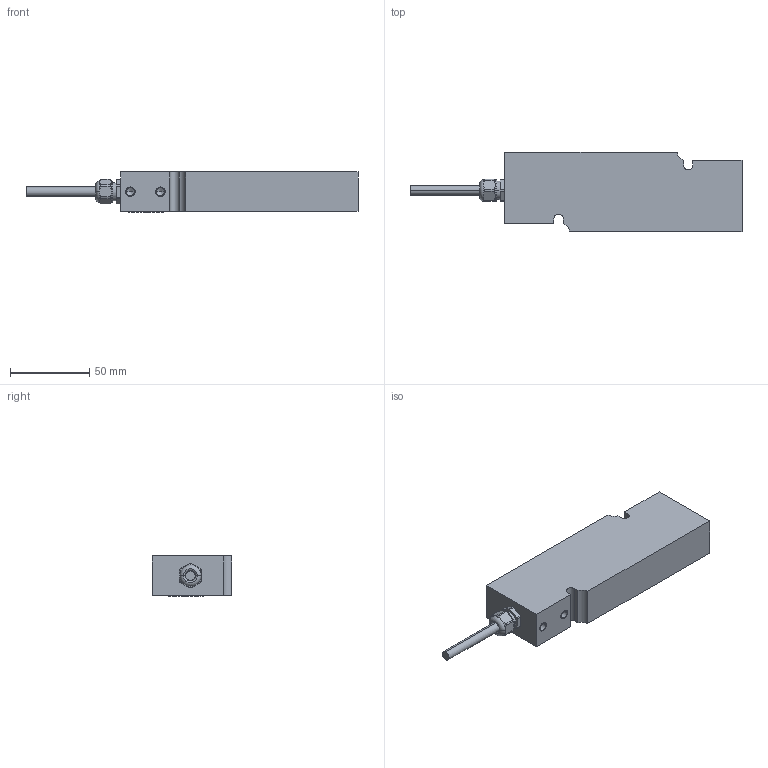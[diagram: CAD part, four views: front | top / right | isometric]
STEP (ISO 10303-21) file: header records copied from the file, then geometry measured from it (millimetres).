
FILE_DESCRIPTION((''),'2;1');
FILE_NAME('D000711350_ASM','2022-04-19T17:14:22',('wang-379'),(''),'CREO PARAMETRIC BY PTC INC, 2018260','CREO PARAMETRIC BY PTC INC, 2018260','');
FILE_SCHEMA(('CONFIG_CONTROL_DESIGN'));
Length unit declared in the file: millimetre
Products named in the file (4): D000285451; D000498808; D000396627; D000711350_ASM
Assembly tree (3 placements, depth 2):
  D000711350_ASM
    D000285451
    D000498808
    D000396627
Bounding box: 210 x 50 x 25.4 mm (x, y, z)
Volume: 172269.9 mm3; surface area: 31290.7 mm2
Topology: 3 solids, 8 shells, 127 faces, 313 edges, 200 vertices
Faces by surface type: plane 50, cylinder 48, cone 22, torus 4, bspline 3
Entity records: 4129 total; most frequent: CARTESIAN_POINT 1005, DIRECTION 668, ORIENTED_EDGE 590, EDGE_CURVE 305, AXIS2_PLACEMENT_3D 262, VERTEX_POINT 200, EDGE_LOOP 145, VECTOR 144
